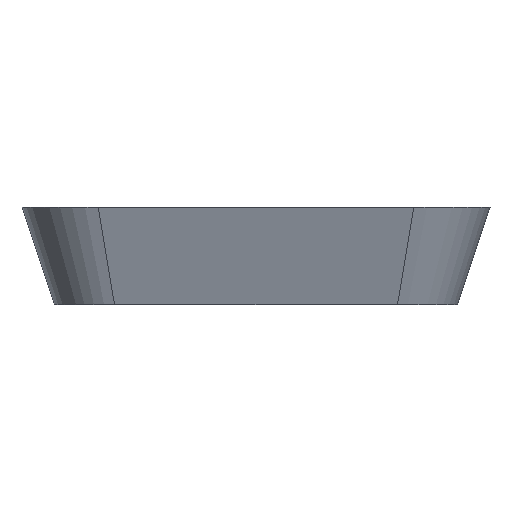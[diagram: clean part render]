
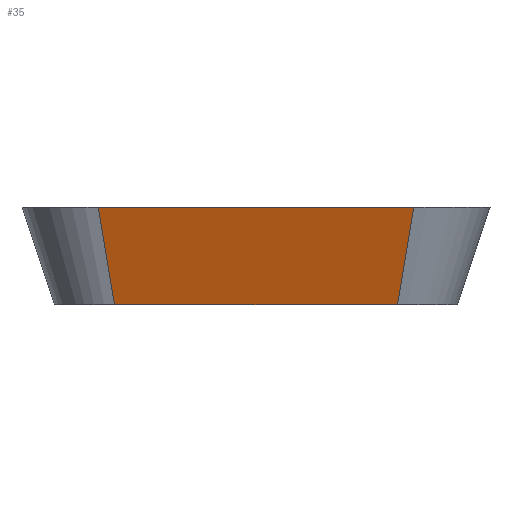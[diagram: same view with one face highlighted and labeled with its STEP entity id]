
A CAD part, left-side view. The second image highlights one B-rep face of the part: STEP entity #35.
In plain terms, the highlighted free-form (B-spline) face has degree [1, 1] with [2, 2] control points.
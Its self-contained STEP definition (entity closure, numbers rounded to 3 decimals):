
#35 = ADVANCED_FACE('',(#36),#50,.T.);
#36 = FACE_BOUND('',#37,.T.);
#37 = EDGE_LOOP('',(#38,#72,#113,#141));
#38 = ORIENTED_EDGE('',*,*,#39,.F.);
#39 = EDGE_CURVE('',#40,#42,#44,.T.);
#40 = VERTEX_POINT('',#41);
#41 = CARTESIAN_POINT('',(-8.,-13.,0.));
#42 = VERTEX_POINT('',#43);
#43 = CARTESIAN_POINT('',(-8.,13.,0.));
#44 = SURFACE_CURVE('',#45,(#49,#60),.PCURVE_S1.);
#45 = LINE('',#46,#47);
#46 = CARTESIAN_POINT('',(-8.,0.,0.));
#47 = VECTOR('',#48,1.);
#48 = DIRECTION('',(0.,1.,0.));
#49 = PCURVE('',#50,#55);
#50 = B_SPLINE_SURFACE_WITH_KNOTS('',1,1,(
    (#51,#52)
    ,(#53,#54
    )),.UNSPECIFIED.,.F.,.F.,.F.,(2,2),(2,2),(-14.5,14.5),(0.,1.),
  .PIECEWISE_BEZIER_KNOTS.);
#51 = CARTESIAN_POINT('',(-8.,13.,0.));
#52 = CARTESIAN_POINT('',(-11.,14.5,9.));
#53 = CARTESIAN_POINT('',(-8.,-13.,0.));
#54 = CARTESIAN_POINT('',(-11.,-14.5,9.));
#55 = DEFINITIONAL_REPRESENTATION('',(#56),#59);
#56 = B_SPLINE_CURVE_WITH_KNOTS('',1,(#57,#58),.UNSPECIFIED.,.F.,.F.,(2,
    2),(-13.,13.),.PIECEWISE_BEZIER_KNOTS.);
#57 = CARTESIAN_POINT('',(14.5,0.));
#58 = CARTESIAN_POINT('',(-14.5,0.));
#59 = ( GEOMETRIC_REPRESENTATION_CONTEXT(2) 
PARAMETRIC_REPRESENTATION_CONTEXT() REPRESENTATION_CONTEXT('2D SPACE',''
  ) );
#60 = PCURVE('',#61,#66);
#61 = PLANE('',#62);
#62 = AXIS2_PLACEMENT_3D('',#63,#64,#65);
#63 = CARTESIAN_POINT('',(-2.5,-13.,0.));
#64 = DIRECTION('',(0.,0.,1.));
#65 = DIRECTION('',(1.,0.,0.));
#66 = DEFINITIONAL_REPRESENTATION('',(#67),#71);
#67 = LINE('',#68,#69);
#68 = CARTESIAN_POINT('',(-5.5,13.));
#69 = VECTOR('',#70,1.);
#70 = DIRECTION('',(0.,1.));
#71 = ( GEOMETRIC_REPRESENTATION_CONTEXT(2) 
PARAMETRIC_REPRESENTATION_CONTEXT() REPRESENTATION_CONTEXT('2D SPACE',''
  ) );
#72 = ORIENTED_EDGE('',*,*,#73,.T.);
#73 = EDGE_CURVE('',#40,#74,#76,.T.);
#74 = VERTEX_POINT('',#75);
#75 = CARTESIAN_POINT('',(-11.,-14.5,9.));
#76 = SURFACE_CURVE('',#77,(#80,#87),.PCURVE_S1.);
#77 = B_SPLINE_CURVE_WITH_KNOTS('',1,(#78,#79),.UNSPECIFIED.,.F.,.F.,(2,
    2),(0.,1.),.PIECEWISE_BEZIER_KNOTS.);
#78 = CARTESIAN_POINT('',(-8.,-13.,0.));
#79 = CARTESIAN_POINT('',(-11.,-14.5,9.));
#80 = PCURVE('',#50,#81);
#81 = DEFINITIONAL_REPRESENTATION('',(#82),#86);
#82 = LINE('',#83,#84);
#83 = CARTESIAN_POINT('',(14.5,0.));
#84 = VECTOR('',#85,1.);
#85 = DIRECTION('',(0.,1.));
#86 = ( GEOMETRIC_REPRESENTATION_CONTEXT(2) 
PARAMETRIC_REPRESENTATION_CONTEXT() REPRESENTATION_CONTEXT('2D SPACE',''
  ) );
#87 = PCURVE('',#88,#107);
#88 = B_SPLINE_SURFACE_WITH_KNOTS('',8,1,(
    (#89,#90)
    ,(#91,#92)
    ,(#93,#94)
    ,(#95,#96)
    ,(#97,#98)
    ,(#99,#100)
    ,(#101,#102)
    ,(#103,#104)
    ,(#105,#106
    )),.UNSPECIFIED.,.F.,.F.,.F.,(9,9),(2,2),(3.142,
    4.712),(0.,1.),.PIECEWISE_BEZIER_KNOTS.);
#89 = CARTESIAN_POINT('',(-8.,-13.,0.));
#90 = CARTESIAN_POINT('',(-11.,-14.5,9.));
#91 = CARTESIAN_POINT('',(-8.,-14.08,0.));
#92 = CARTESIAN_POINT('',(-11.,-15.874,9.));
#93 = CARTESIAN_POINT('',(-7.758,-15.16,0.));
#94 = CARTESIAN_POINT('',(-10.692,-17.249,9.));
#95 = CARTESIAN_POINT('',(-7.273,-16.176,0.));
#96 = CARTESIAN_POINT('',(-10.075,-18.543,9.));
#97 = CARTESIAN_POINT('',(-6.566,-17.066,0.));
#98 = CARTESIAN_POINT('',(-9.175,-19.675,9.));
#99 = CARTESIAN_POINT('',(-5.676,-17.773,0.));
#100 = CARTESIAN_POINT('',(-8.043,-20.575,9.));
#101 = CARTESIAN_POINT('',(-4.66,-18.258,0.));
#102 = CARTESIAN_POINT('',(-6.749,-21.192,9.));
#103 = CARTESIAN_POINT('',(-3.58,-18.5,0.));
#104 = CARTESIAN_POINT('',(-5.374,-21.5,9.));
#105 = CARTESIAN_POINT('',(-2.5,-18.5,0.));
#106 = CARTESIAN_POINT('',(-4.,-21.5,9.));
#107 = DEFINITIONAL_REPRESENTATION('',(#108),#112);
#108 = LINE('',#109,#110);
#109 = CARTESIAN_POINT('',(3.142,0.));
#110 = VECTOR('',#111,1.);
#111 = DIRECTION('',(0.,1.));
#112 = ( GEOMETRIC_REPRESENTATION_CONTEXT(2) 
PARAMETRIC_REPRESENTATION_CONTEXT() REPRESENTATION_CONTEXT('2D SPACE',''
  ) );
#113 = ORIENTED_EDGE('',*,*,#114,.T.);
#114 = EDGE_CURVE('',#74,#115,#117,.T.);
#115 = VERTEX_POINT('',#116);
#116 = CARTESIAN_POINT('',(-11.,14.5,9.));
#117 = SURFACE_CURVE('',#118,(#122,#129),.PCURVE_S1.);
#118 = LINE('',#119,#120);
#119 = CARTESIAN_POINT('',(-11.,0.,9.));
#120 = VECTOR('',#121,1.);
#121 = DIRECTION('',(0.,1.,0.));
#122 = PCURVE('',#50,#123);
#123 = DEFINITIONAL_REPRESENTATION('',(#124),#128);
#124 = LINE('',#125,#126);
#125 = CARTESIAN_POINT('',(0.,1.));
#126 = VECTOR('',#127,1.);
#127 = DIRECTION('',(-1.,0.));
#128 = ( GEOMETRIC_REPRESENTATION_CONTEXT(2) 
PARAMETRIC_REPRESENTATION_CONTEXT() REPRESENTATION_CONTEXT('2D SPACE',''
  ) );
#129 = PCURVE('',#130,#135);
#130 = PLANE('',#131);
#131 = AXIS2_PLACEMENT_3D('',#132,#133,#134);
#132 = CARTESIAN_POINT('',(-4.,-14.5,9.));
#133 = DIRECTION('',(0.,0.,-1.));
#134 = DIRECTION('',(-1.,0.,0.));
#135 = DEFINITIONAL_REPRESENTATION('',(#136),#140);
#136 = LINE('',#137,#138);
#137 = CARTESIAN_POINT('',(7.,14.5));
#138 = VECTOR('',#139,1.);
#139 = DIRECTION('',(0.,1.));
#140 = ( GEOMETRIC_REPRESENTATION_CONTEXT(2) 
PARAMETRIC_REPRESENTATION_CONTEXT() REPRESENTATION_CONTEXT('2D SPACE',''
  ) );
#141 = ORIENTED_EDGE('',*,*,#142,.F.);
#142 = EDGE_CURVE('',#42,#115,#143,.T.);
#143 = SURFACE_CURVE('',#144,(#147,#154),.PCURVE_S1.);
#144 = B_SPLINE_CURVE_WITH_KNOTS('',1,(#145,#146),.UNSPECIFIED.,.F.,.F.,
  (2,2),(0.,1.),.PIECEWISE_BEZIER_KNOTS.);
#145 = CARTESIAN_POINT('',(-8.,13.,0.));
#146 = CARTESIAN_POINT('',(-11.,14.5,9.));
#147 = PCURVE('',#50,#148);
#148 = DEFINITIONAL_REPRESENTATION('',(#149),#153);
#149 = LINE('',#150,#151);
#150 = CARTESIAN_POINT('',(-14.5,0.));
#151 = VECTOR('',#152,1.);
#152 = DIRECTION('',(0.,1.));
#153 = ( GEOMETRIC_REPRESENTATION_CONTEXT(2) 
PARAMETRIC_REPRESENTATION_CONTEXT() REPRESENTATION_CONTEXT('2D SPACE',''
  ) );
#154 = PCURVE('',#155,#174);
#155 = B_SPLINE_SURFACE_WITH_KNOTS('',8,1,(
    (#156,#157)
    ,(#158,#159)
    ,(#160,#161)
    ,(#162,#163)
    ,(#164,#165)
    ,(#166,#167)
    ,(#168,#169)
    ,(#170,#171)
    ,(#172,#173
    )),.UNSPECIFIED.,.F.,.F.,.F.,(9,9),(2,2),(1.571,
    3.142),(0.,1.),.PIECEWISE_BEZIER_KNOTS.);
#156 = CARTESIAN_POINT('',(-2.5,18.5,0.));
#157 = CARTESIAN_POINT('',(-4.,21.5,9.));
#158 = CARTESIAN_POINT('',(-3.58,18.5,0.));
#159 = CARTESIAN_POINT('',(-5.374,21.5,9.));
#160 = CARTESIAN_POINT('',(-4.66,18.258,0.));
#161 = CARTESIAN_POINT('',(-6.749,21.192,9.));
#162 = CARTESIAN_POINT('',(-5.676,17.773,0.));
#163 = CARTESIAN_POINT('',(-8.043,20.575,
    9.));
#164 = CARTESIAN_POINT('',(-6.566,17.066,0.));
#165 = CARTESIAN_POINT('',(-9.175,19.675,9.)
  );
#166 = CARTESIAN_POINT('',(-7.273,16.176,0.));
#167 = CARTESIAN_POINT('',(-10.075,18.543,9.
    ));
#168 = CARTESIAN_POINT('',(-7.758,15.16,0.));
#169 = CARTESIAN_POINT('',(-10.692,17.249,9.));
#170 = CARTESIAN_POINT('',(-8.,14.08,0.));
#171 = CARTESIAN_POINT('',(-11.,15.874,9.));
#172 = CARTESIAN_POINT('',(-8.,13.,0.));
#173 = CARTESIAN_POINT('',(-11.,14.5,9.));
#174 = DEFINITIONAL_REPRESENTATION('',(#175),#179);
#175 = LINE('',#176,#177);
#176 = CARTESIAN_POINT('',(3.142,0.));
#177 = VECTOR('',#178,1.);
#178 = DIRECTION('',(0.,1.));
#179 = ( GEOMETRIC_REPRESENTATION_CONTEXT(2) 
PARAMETRIC_REPRESENTATION_CONTEXT() REPRESENTATION_CONTEXT('2D SPACE',''
  ) );
